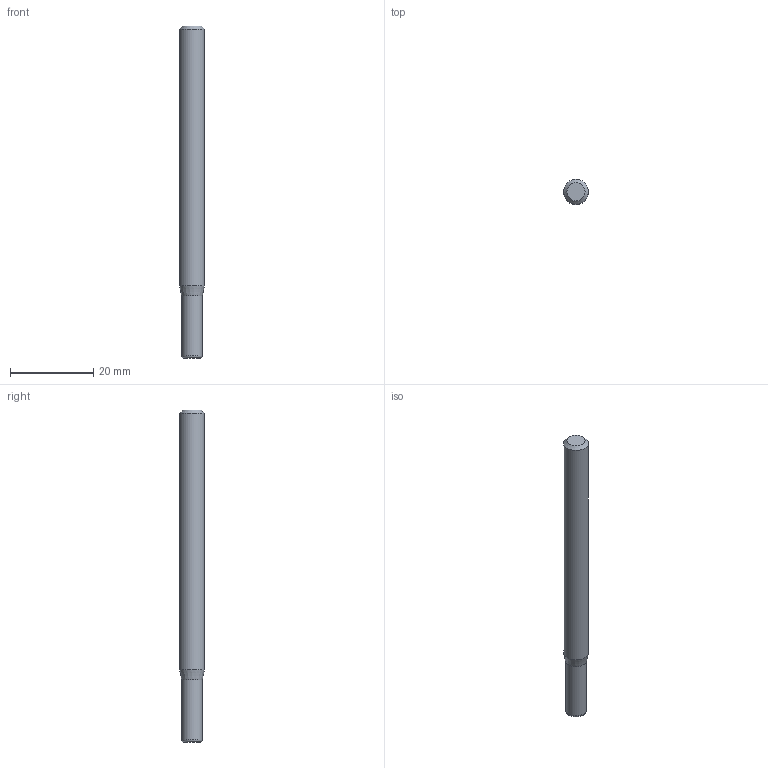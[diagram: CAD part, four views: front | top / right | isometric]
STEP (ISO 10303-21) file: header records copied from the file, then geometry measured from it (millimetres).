
FILE_DESCRIPTION((''),'2;1');
FILE_NAME('C:\Users\nsx150\AppData\Local\Temp\Mastercam 2021\03UJLO2QV3\TEMP.step','2023-09-20T09:29:45',(''),(''),'STEP Write','Mastercam 2021 ... CNC Software, Inc.','');
FILE_SCHEMA(('AUTOMOTIVE_DESIGN'));
Length unit declared in the file: millimetre
Products named in the file (1): None
Bounding box: 6 x 6 x 80 mm (x, y, z)
Volume: 2115.6 mm3; surface area: 1532.1 mm2
Topology: 2 solids, 2 shells, 9 faces, 12 edges, 7 vertices
Faces by surface type: plane 4, cylinder 2, cone 2, torus 1
Full cylindrical faces by diameter (mm): 5 x1, 6 x1
Entity records: 211 total; most frequent: DIRECTION 36, CARTESIAN_POINT 25, AXIS2_PLACEMENT_3D 18, ORIENTED_EDGE 14, EDGE_LOOP 14, STYLED_ITEM 12, ADVANCED_FACE 9, FACE_BOUND 8
